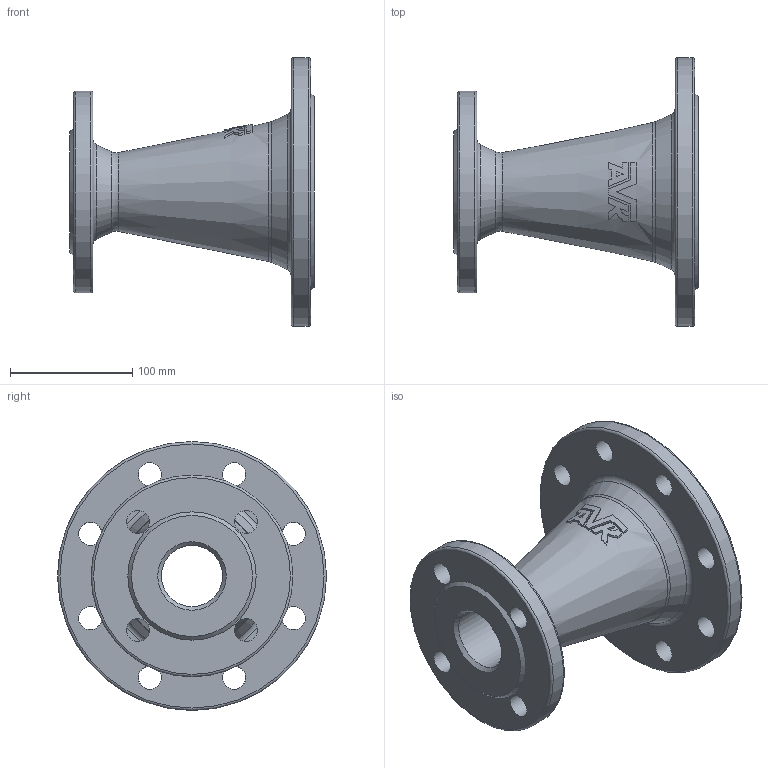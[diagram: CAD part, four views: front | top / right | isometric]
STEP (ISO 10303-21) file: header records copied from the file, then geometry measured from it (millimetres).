
FILE_DESCRIPTION (( 'STEP AP203' ), '1' );
FILE_NAME ('O_712_2210_DN100_DN50_1X_REV01.step', '2024-08-07T10:57:03', ( '' ), ( '' ), 'SwSTEP 2.0', 'SolidWorks 2022', '' );
FILE_SCHEMA (( 'CONFIG_CONTROL_DESIGN' ));
Length unit declared in the file: millimetre
Products named in the file (1): O_712_2210_DN100_DN50_1X_REV01
Bounding box: 200 x 220 x 220 mm (x, y, z)
Volume: 1120696 mm3; surface area: 208264.8 mm2
Topology: 1 solids, 1 shells, 89 faces, 237 edges, 150 vertices
Faces by surface type: plane 49, cylinder 18, cone 12, torus 10
Full cylindrical faces by diameter (mm): 19 x12, 50 x1, 100 x1, 165 x1, 220 x1
Entity records: 2664 total; most frequent: CARTESIAN_POINT 595, DIRECTION 431, ORIENTED_EDGE 372, AXIS2_PLACEMENT_3D 197, EDGE_CURVE 186, EDGE_LOOP 149, VERTEX_POINT 133, FACE_OUTER_BOUND 115
